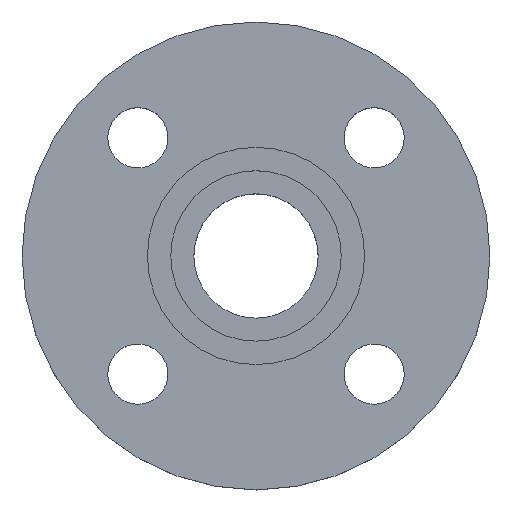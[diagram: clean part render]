
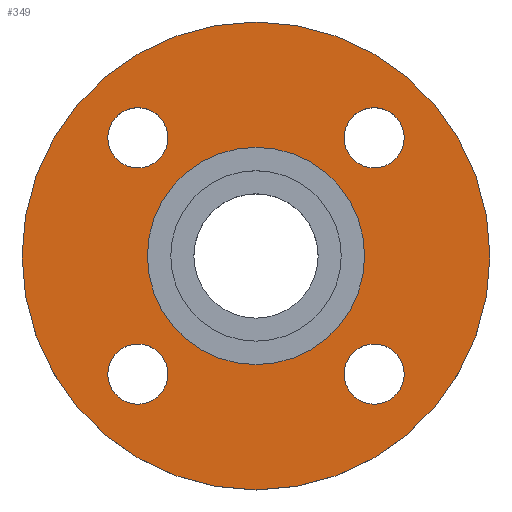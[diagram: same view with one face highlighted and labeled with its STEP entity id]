
A CAD part, top view. The second image highlights one B-rep face of the part: STEP entity #349.
In plain terms, the highlighted planar face has unit normal (0, 0, 1).
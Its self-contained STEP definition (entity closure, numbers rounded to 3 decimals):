
#4 = DIRECTION ( 'NONE',  ( 0., 0., -1. ) ) ;
#6 = AXIS2_PLACEMENT_3D ( 'NONE', #891, #269, #546 ) ;
#24 = VERTEX_POINT ( 'NONE', #772 ) ;
#27 = CARTESIAN_POINT ( 'NONE',  ( -26.355, -35.355, -4.5 ) ) ;
#32 = DIRECTION ( 'NONE',  ( 1., 0., 0. ) ) ;
#39 = CARTESIAN_POINT ( 'NONE',  ( -70., 0., -4.5 ) ) ;
#51 = FACE_OUTER_BOUND ( 'NONE', #119, .T. ) ;
#54 = DIRECTION ( 'NONE',  ( 1., 0., 0. ) ) ;
#57 = AXIS2_PLACEMENT_3D ( 'NONE', #694, #74, #346 ) ;
#70 = EDGE_CURVE ( 'NONE', #24, #384, #443, .T. ) ;
#74 = DIRECTION ( 'NONE',  ( 0., 0., -1. ) ) ;
#75 = ORIENTED_EDGE ( 'NONE', *, *, #508, .T. ) ;
#98 = DIRECTION ( 'NONE',  ( 1., 0., 0. ) ) ;
#107 = CARTESIAN_POINT ( 'NONE',  ( -44.355, -35.355, -4.5 ) ) ;
#119 = EDGE_LOOP ( 'NONE', ( #605, #851 ) ) ;
#125 = ORIENTED_EDGE ( 'NONE', *, *, #146, .T. ) ;
#126 = FACE_BOUND ( 'NONE', #748, .T. ) ;
#128 = VERTEX_POINT ( 'NONE', #787 ) ;
#146 = EDGE_CURVE ( 'NONE', #128, #827, #305, .T. ) ;
#163 = ORIENTED_EDGE ( 'NONE', *, *, #714, .T. ) ;
#172 = DIRECTION ( 'NONE',  ( -1., 0., 0. ) ) ;
#180 = CIRCLE ( 'NONE', #57, 70. ) ;
#190 = AXIS2_PLACEMENT_3D ( 'NONE', #238, #513, #795 ) ;
#191 = VERTEX_POINT ( 'NONE', #438 ) ;
#193 = DIRECTION ( 'NONE',  ( 1., 0., 0. ) ) ;
#198 = VERTEX_POINT ( 'NONE', #107 ) ;
#200 = CARTESIAN_POINT ( 'NONE',  ( 26.355, -35.355, -4.5 ) ) ;
#202 = CIRCLE ( 'NONE', #594, 9. ) ;
#222 = DIRECTION ( 'NONE',  ( 1., 0., 0. ) ) ;
#230 = AXIS2_PLACEMENT_3D ( 'NONE', #430, #715, #98 ) ;
#232 = EDGE_LOOP ( 'NONE', ( #803, #662 ) ) ;
#238 = CARTESIAN_POINT ( 'NONE',  ( -35.355, 35.355, -4.5 ) ) ;
#260 = DIRECTION ( 'NONE',  ( 1., 0., 0. ) ) ;
#269 = DIRECTION ( 'NONE',  ( 0., 0., -1. ) ) ;
#280 = VERTEX_POINT ( 'NONE', #39 ) ;
#282 = DIRECTION ( 'NONE',  ( 1., 0., 0. ) ) ;
#286 = DIRECTION ( 'NONE',  ( 1., 0., 0. ) ) ;
#292 = CARTESIAN_POINT ( 'NONE',  ( 44.355, -35.355, -4.5 ) ) ;
#303 = AXIS2_PLACEMENT_3D ( 'NONE', #572, #844, #222 ) ;
#305 = CIRCLE ( 'NONE', #190, 9. ) ;
#314 = CARTESIAN_POINT ( 'NONE',  ( 44.355, 35.355, -4.5 ) ) ;
#320 = AXIS2_PLACEMENT_3D ( 'NONE', #379, #656, #32 ) ;
#321 = CIRCLE ( 'NONE', #709, 9. ) ;
#327 = PLANE ( 'NONE',  #824 ) ;
#346 = DIRECTION ( 'NONE',  ( -1., 0., 0. ) ) ;
#349 = ADVANCED_FACE ( 'NONE', ( #454, #740, #126, #393, #673, #51 ), #327, .T. ) ;
#358 = CIRCLE ( 'NONE', #752, 32.5 ) ;
#374 = CIRCLE ( 'NONE', #766, 9. ) ;
#376 = EDGE_CURVE ( 'NONE', #552, #769, #321, .T. ) ;
#379 = CARTESIAN_POINT ( 'NONE',  ( -35.355, -35.355, -4.5 ) ) ;
#384 = VERTEX_POINT ( 'NONE', #459 ) ;
#386 = EDGE_LOOP ( 'NONE', ( #163, #75 ) ) ;
#393 = FACE_BOUND ( 'NONE', #834, .T. ) ;
#396 = CARTESIAN_POINT ( 'NONE',  ( -35.355, 35.355, -4.5 ) ) ;
#404 = DIRECTION ( 'NONE',  ( 0., 0., -1. ) ) ;
#407 = EDGE_CURVE ( 'NONE', #827, #128, #202, .T. ) ;
#411 = CIRCLE ( 'NONE', #303, 9. ) ;
#428 = ORIENTED_EDGE ( 'NONE', *, *, #407, .T. ) ;
#430 = CARTESIAN_POINT ( 'NONE',  ( 35.355, -35.355, -4.5 ) ) ;
#438 = CARTESIAN_POINT ( 'NONE',  ( 70., 0., -4.5 ) ) ;
#441 = CIRCLE ( 'NONE', #835, 9. ) ;
#443 = CIRCLE ( 'NONE', #837, 32.5 ) ;
#453 = ORIENTED_EDGE ( 'NONE', *, *, #531, .T. ) ;
#454 = FACE_BOUND ( 'NONE', #677, .T. ) ;
#459 = CARTESIAN_POINT ( 'NONE',  ( 32.5, 0., -4.5 ) ) ;
#462 = EDGE_CURVE ( 'NONE', #384, #24, #358, .T. ) ;
#507 = EDGE_CURVE ( 'NONE', #191, #280, #180, .T. ) ;
#508 = EDGE_CURVE ( 'NONE', #198, #686, #441, .T. ) ;
#510 = CARTESIAN_POINT ( 'NONE',  ( 0., 0., -4.5 ) ) ;
#513 = DIRECTION ( 'NONE',  ( 0., 0., -1. ) ) ;
#531 = EDGE_CURVE ( 'NONE', #721, #733, #374, .T. ) ;
#535 = CARTESIAN_POINT ( 'NONE',  ( 35.355, -35.355, -4.5 ) ) ;
#546 = DIRECTION ( 'NONE',  ( -1., 0., 0. ) ) ;
#552 = VERTEX_POINT ( 'NONE', #292 ) ;
#564 = EDGE_CURVE ( 'NONE', #733, #721, #411, .T. ) ;
#570 = ORIENTED_EDGE ( 'NONE', *, *, #376, .T. ) ;
#572 = CARTESIAN_POINT ( 'NONE',  ( 35.355, 35.355, -4.5 ) ) ;
#590 = ORIENTED_EDGE ( 'NONE', *, *, #564, .T. ) ;
#594 = AXIS2_PLACEMENT_3D ( 'NONE', #396, #675, #54 ) ;
#605 = ORIENTED_EDGE ( 'NONE', *, *, #507, .F. ) ;
#606 = CARTESIAN_POINT ( 'NONE',  ( 32.5, 0., -4.5 ) ) ;
#626 = CARTESIAN_POINT ( 'NONE',  ( -35.355, -35.355, -4.5 ) ) ;
#631 = CARTESIAN_POINT ( 'NONE',  ( 35.355, 35.355, -4.5 ) ) ;
#656 = DIRECTION ( 'NONE',  ( 0., 0., -1. ) ) ;
#660 = EDGE_CURVE ( 'NONE', #769, #552, #737, .T. ) ;
#662 = ORIENTED_EDGE ( 'NONE', *, *, #462, .T. ) ;
#673 = FACE_BOUND ( 'NONE', #232, .T. ) ;
#675 = DIRECTION ( 'NONE',  ( 0., 0., -1. ) ) ;
#677 = EDGE_LOOP ( 'NONE', ( #570, #820 ) ) ;
#685 = DIRECTION ( 'NONE',  ( -1., 0., 0. ) ) ;
#686 = VERTEX_POINT ( 'NONE', #27 ) ;
#694 = CARTESIAN_POINT ( 'NONE',  ( 0., 0., -4.5 ) ) ;
#699 = CARTESIAN_POINT ( 'NONE',  ( -26.355, 35.355, -4.5 ) ) ;
#709 = AXIS2_PLACEMENT_3D ( 'NONE', #535, #814, #193 ) ;
#714 = EDGE_CURVE ( 'NONE', #686, #198, #823, .T. ) ;
#715 = DIRECTION ( 'NONE',  ( 0., 0., -1. ) ) ;
#721 = VERTEX_POINT ( 'NONE', #314 ) ;
#733 = VERTEX_POINT ( 'NONE', #815 ) ;
#737 = CIRCLE ( 'NONE', #230, 9. ) ;
#740 = FACE_BOUND ( 'NONE', #386, .T. ) ;
#748 = EDGE_LOOP ( 'NONE', ( #428, #125 ) ) ;
#752 = AXIS2_PLACEMENT_3D ( 'NONE', #818, #404, #685 ) ;
#763 = EDGE_CURVE ( 'NONE', #280, #191, #800, .T. ) ;
#766 = AXIS2_PLACEMENT_3D ( 'NONE', #631, #4, #286 ) ;
#769 = VERTEX_POINT ( 'NONE', #200 ) ;
#772 = CARTESIAN_POINT ( 'NONE',  ( -32.5, 0., -4.5 ) ) ;
#787 = CARTESIAN_POINT ( 'NONE',  ( -44.355, 35.355, -4.5 ) ) ;
#793 = DIRECTION ( 'NONE',  ( 0., 0., -1. ) ) ;
#795 = DIRECTION ( 'NONE',  ( 1., 0., 0. ) ) ;
#800 = CIRCLE ( 'NONE', #6, 70. ) ;
#803 = ORIENTED_EDGE ( 'NONE', *, *, #70, .T. ) ;
#814 = DIRECTION ( 'NONE',  ( 0., 0., -1. ) ) ;
#815 = CARTESIAN_POINT ( 'NONE',  ( 26.355, 35.355, -4.5 ) ) ;
#818 = CARTESIAN_POINT ( 'NONE',  ( 0., 0., -4.5 ) ) ;
#820 = ORIENTED_EDGE ( 'NONE', *, *, #660, .T. ) ;
#823 = CIRCLE ( 'NONE', #320, 9. ) ;
#824 = AXIS2_PLACEMENT_3D ( 'NONE', #606, #881, #260 ) ;
#827 = VERTEX_POINT ( 'NONE', #699 ) ;
#834 = EDGE_LOOP ( 'NONE', ( #453, #590 ) ) ;
#835 = AXIS2_PLACEMENT_3D ( 'NONE', #626, #903, #282 ) ;
#837 = AXIS2_PLACEMENT_3D ( 'NONE', #510, #793, #172 ) ;
#844 = DIRECTION ( 'NONE',  ( 0., 0., -1. ) ) ;
#851 = ORIENTED_EDGE ( 'NONE', *, *, #763, .F. ) ;
#881 = DIRECTION ( 'NONE',  ( 0., 0., 1. ) ) ;
#891 = CARTESIAN_POINT ( 'NONE',  ( 0., 0., -4.5 ) ) ;
#903 = DIRECTION ( 'NONE',  ( 0., 0., -1. ) ) ;
